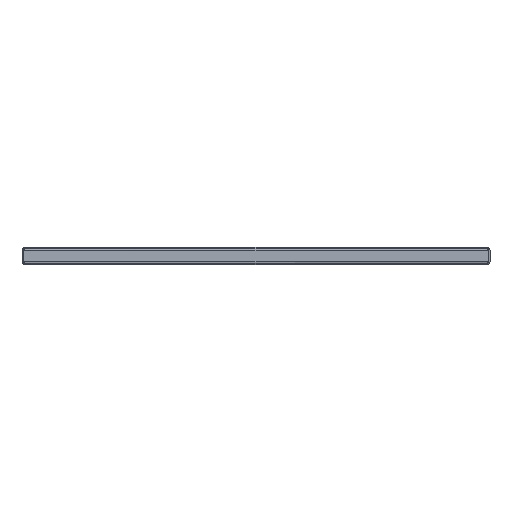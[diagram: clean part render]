
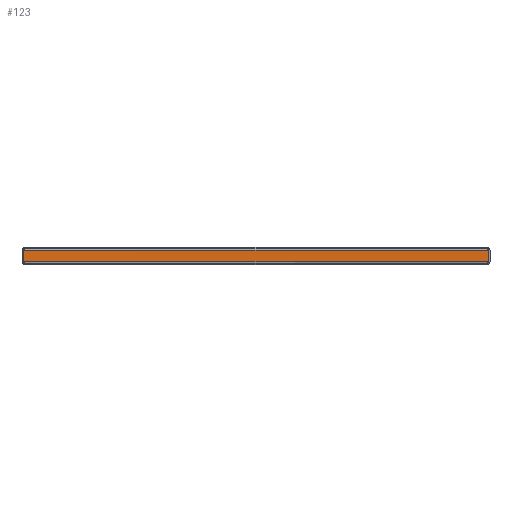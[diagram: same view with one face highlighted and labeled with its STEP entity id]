
A CAD part, front view. The second image highlights one B-rep face of the part: STEP entity #123.
In plain terms, the highlighted planar face has unit normal (0, -1, 0).
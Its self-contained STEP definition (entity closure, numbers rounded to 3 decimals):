
#123=ADVANCED_FACE('',(#1163),#1165,.F.);
#1163=FACE_BOUND('',#1164,.T.);
#1164=EDGE_LOOP('',(#2189,#2190,#2191,#2192));
#1165=PLANE('',#1166);
#1166=AXIS2_PLACEMENT_3D('',#1167,#1168,#1169);
#1167=CARTESIAN_POINT('',(0.,-766.5,0.));
#1168=DIRECTION('',(0.,1.,0.));
#1169=DIRECTION('',(0.,0.,1.));
#2189=ORIENTED_EDGE('',*,*,#2627,.F.);
#2190=ORIENTED_EDGE('',*,*,#2629,.F.);
#2191=ORIENTED_EDGE('',*,*,#2630,.F.);
#2192=ORIENTED_EDGE('',*,*,#2631,.F.);
#2627=EDGE_CURVE('',#3044,#3038,#3047,.T.);
#2629=EDGE_CURVE('',#3049,#3044,#3050,.T.);
#2630=EDGE_CURVE('',#3051,#3049,#3052,.T.);
#2631=EDGE_CURVE('',#3038,#3051,#3053,.T.);
#3038=VERTEX_POINT('',#4568);
#3044=VERTEX_POINT('',#4741);
#3047=LINE('',#4803,#4804);
#3049=VERTEX_POINT('',#4809);
#3050=LINE('',#4810,#4811);
#3051=VERTEX_POINT('',#4813);
#3052=LINE('',#4814,#4815);
#3053=LINE('',#4817,#4818);
#4568=CARTESIAN_POINT('',(336.823,-766.5,-4.));
#4741=CARTESIAN_POINT('',(-336.823,-766.5,-4.));
#4803=CARTESIAN_POINT('',(-336.823,-766.5,-4.));
#4804=VECTOR('',#4805,1.);
#4805=DIRECTION('',(1.,0.,0.));
#4809=CARTESIAN_POINT('',(-336.823,-766.5,-21.));
#4810=CARTESIAN_POINT('',(-336.823,-766.5,-21.));
#4811=VECTOR('',#4812,1.);
#4812=DIRECTION('',(0.,0.,1.));
#4813=CARTESIAN_POINT('',(336.823,-766.5,-21.));
#4814=CARTESIAN_POINT('',(336.823,-766.5,-21.));
#4815=VECTOR('',#4816,1.);
#4816=DIRECTION('',(-1.,0.,0.));
#4817=CARTESIAN_POINT('',(336.823,-766.5,-4.));
#4818=VECTOR('',#4819,1.);
#4819=DIRECTION('',(0.,0.,-1.));
